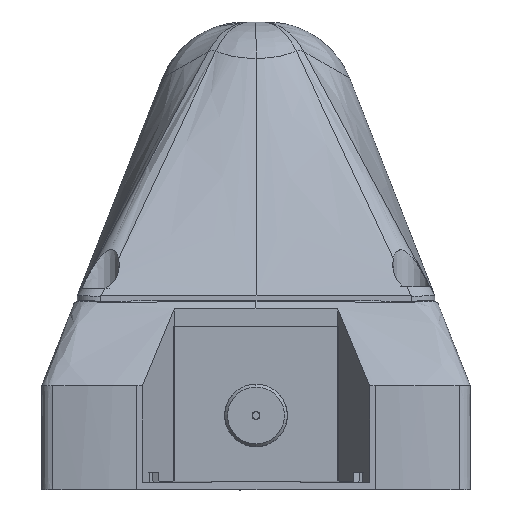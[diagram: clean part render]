
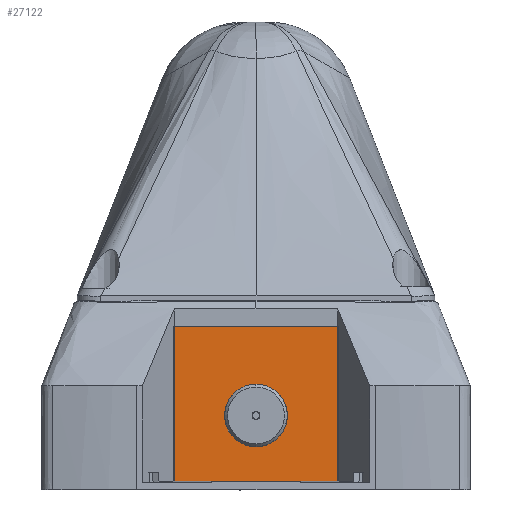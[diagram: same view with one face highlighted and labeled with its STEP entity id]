
A CAD part, left-side view. The second image highlights one B-rep face of the part: STEP entity #27122.
In plain terms, the highlighted planar face has unit normal (-1, 0, -0.018).
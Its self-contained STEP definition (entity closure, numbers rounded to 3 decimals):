
#374 = EDGE_CURVE ( 'NONE', #9899, #22978, #50306, .T. ) ;
#1586 = CARTESIAN_POINT ( 'NONE',  ( -82.817, -27.5, 53.636 ) ) ;
#2766 = CARTESIAN_POINT ( 'NONE',  ( -81.933, 15., 3. ) ) ;
#4166 = ORIENTED_EDGE ( 'NONE', *, *, #32723, .F. ) ;
#6637 = DIRECTION ( 'NONE',  ( -1., 0., -0.017 ) ) ;
#7539 = VECTOR ( 'NONE', #29162, 1000. ) ;
#8399 = DIRECTION ( 'NONE',  ( -0.017, 0., 1. ) ) ;
#8488 = CARTESIAN_POINT ( 'NONE',  ( -81.933, 27.5, 3. ) ) ;
#9097 = ORIENTED_EDGE ( 'NONE', *, *, #31129, .F. ) ;
#9899 = VERTEX_POINT ( 'NONE', #49295 ) ;
#10670 = AXIS2_PLACEMENT_3D ( 'NONE', #31491, #6637, #35638 ) ;
#11620 = CARTESIAN_POINT ( 'NONE',  ( -82.501, 0., 35.537 ) ) ;
#11897 = CIRCLE ( 'NONE', #27017, 10.542 ) ;
#12020 = DIRECTION ( 'NONE',  ( -1., 0., -0.017 ) ) ;
#12260 = CARTESIAN_POINT ( 'NONE',  ( -81.933, 27.5, 3. ) ) ;
#12448 = EDGE_LOOP ( 'NONE', ( #29303, #34803 ) ) ;
#12599 = VERTEX_POINT ( 'NONE', #26711 ) ;
#13523 = FACE_OUTER_BOUND ( 'NONE', #16481, .T. ) ;
#13644 = CARTESIAN_POINT ( 'NONE',  ( -82.817, 27.5, 53.636 ) ) ;
#14578 = DIRECTION ( 'NONE',  ( 0., -1., 0. ) ) ;
#14814 = CARTESIAN_POINT ( 'NONE',  ( -81.933, 27.5, 3. ) ) ;
#16481 = EDGE_LOOP ( 'NONE', ( #4166, #25279, #19364, #9097, #31473, #49578 ) ) ;
#18378 = VECTOR ( 'NONE', #31258, 1000. ) ;
#18760 = CARTESIAN_POINT ( 'NONE',  ( -82.84, -27.5, 55. ) ) ;
#18982 = CARTESIAN_POINT ( 'NONE',  ( -82.875, -57.957, 56.965 ) ) ;
#19364 = ORIENTED_EDGE ( 'NONE', *, *, #374, .T. ) ;
#22392 = LINE ( 'NONE', #8488, #32167 ) ;
#22785 = CARTESIAN_POINT ( 'NONE',  ( -82.84, 27.5, 55. ) ) ;
#22968 = EDGE_CURVE ( 'NONE', #42274, #34446, #32853, .T. ) ;
#22978 = VERTEX_POINT ( 'NONE', #18760 ) ;
#23190 = DIRECTION ( 'NONE',  ( 0.017, 0., -1. ) ) ;
#24412 = CARTESIAN_POINT ( 'NONE',  ( -82.133, 0., 14.456 ) ) ;
#24581 = FACE_BOUND ( 'NONE', #12448, .T. ) ;
#25279 = ORIENTED_EDGE ( 'NONE', *, *, #53213, .T. ) ;
#25345 = VERTEX_POINT ( 'NONE', #22785 ) ;
#25867 = VERTEX_POINT ( 'NONE', #12260 ) ;
#26711 = CARTESIAN_POINT ( 'NONE',  ( -81.933, -15., 3. ) ) ;
#26885 = LINE ( 'NONE', #13644, #47543 ) ;
#27017 = AXIS2_PLACEMENT_3D ( 'NONE', #36884, #12020, #41025 ) ;
#27122 = ADVANCED_FACE ( 'NONE', ( #13523, #24581 ), #51938, .F. ) ;
#28412 = LINE ( 'NONE', #14814, #39414 ) ;
#29162 = DIRECTION ( 'NONE',  ( -0.017, 0., 1. ) ) ;
#29303 = ORIENTED_EDGE ( 'NONE', *, *, #22968, .F. ) ;
#29930 = VERTEX_POINT ( 'NONE', #2766 ) ;
#31092 = VECTOR ( 'NONE', #14578, 1000. ) ;
#31129 = EDGE_CURVE ( 'NONE', #25345, #22978, #53084, .T. ) ;
#31258 = DIRECTION ( 'NONE',  ( 0., -1., 0. ) ) ;
#31473 = ORIENTED_EDGE ( 'NONE', *, *, #47140, .F. ) ;
#31491 = CARTESIAN_POINT ( 'NONE',  ( -82.317, 0., 24.997 ) ) ;
#32167 = VECTOR ( 'NONE', #49964, 1000. ) ;
#32723 = EDGE_CURVE ( 'NONE', #12599, #29930, #22392, .T. ) ;
#32853 = CIRCLE ( 'NONE', #10670, 10.542 ) ;
#34446 = VERTEX_POINT ( 'NONE', #24412 ) ;
#34803 = ORIENTED_EDGE ( 'NONE', *, *, #44154, .F. ) ;
#35254 = LINE ( 'NONE', #51839, #18378 ) ;
#35638 = DIRECTION ( 'NONE',  ( 0.017, 0., -1. ) ) ;
#36884 = CARTESIAN_POINT ( 'NONE',  ( -82.317, 0., 24.997 ) ) ;
#39414 = VECTOR ( 'NONE', #52119, 1000. ) ;
#39443 = CARTESIAN_POINT ( 'NONE',  ( -82.84, 27.5, 55. ) ) ;
#41025 = DIRECTION ( 'NONE',  ( 0.017, 0., -1. ) ) ;
#42274 = VERTEX_POINT ( 'NONE', #11620 ) ;
#43139 = AXIS2_PLACEMENT_3D ( 'NONE', #18982, #47964, #23190 ) ;
#44154 = EDGE_CURVE ( 'NONE', #34446, #42274, #11897, .T. ) ;
#47140 = EDGE_CURVE ( 'NONE', #25867, #25345, #26885, .T. ) ;
#47543 = VECTOR ( 'NONE', #8399, 1000. ) ;
#47964 = DIRECTION ( 'NONE',  ( 1., 0., 0.017 ) ) ;
#49295 = CARTESIAN_POINT ( 'NONE',  ( -81.933, -27.5, 3. ) ) ;
#49578 = ORIENTED_EDGE ( 'NONE', *, *, #51611, .F. ) ;
#49964 = DIRECTION ( 'NONE',  ( 0., 1., 0. ) ) ;
#50306 = LINE ( 'NONE', #1586, #7539 ) ;
#51611 = EDGE_CURVE ( 'NONE', #29930, #25867, #28412, .T. ) ;
#51839 = CARTESIAN_POINT ( 'NONE',  ( -81.933, -27.5, 3. ) ) ;
#51938 = PLANE ( 'NONE',  #43139 ) ;
#52119 = DIRECTION ( 'NONE',  ( 0., 1., 0. ) ) ;
#53084 = LINE ( 'NONE', #39443, #31092 ) ;
#53213 = EDGE_CURVE ( 'NONE', #12599, #9899, #35254, .T. ) ;
